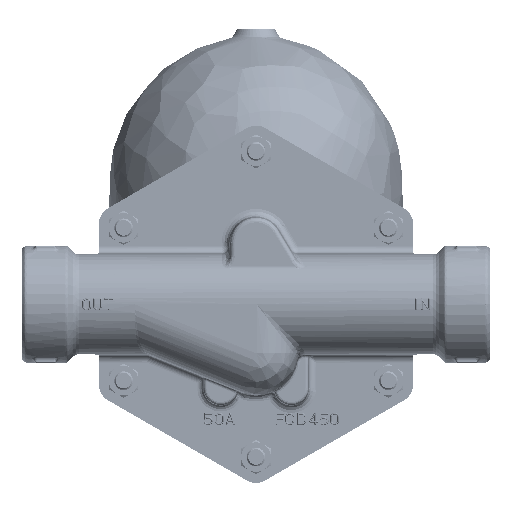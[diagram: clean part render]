
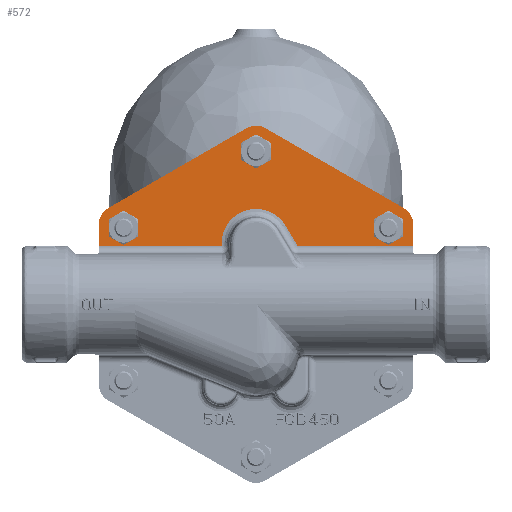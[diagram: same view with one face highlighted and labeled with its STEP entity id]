
A CAD part, front view. The second image highlights one B-rep face of the part: STEP entity #572.
In plain terms, the highlighted planar face has unit normal (0, -1, 0) as drawn and (0, 0, 1) by its records, which use the part's own axes.
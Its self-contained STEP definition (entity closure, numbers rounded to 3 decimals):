
#572=ADVANCED_FACE('',(#3962),#3961,.F.);
#3961=PLANE('',#22047);
#3962=FACE_OUTER_BOUND('',#22048,.T.);
#22044=CARTESIAN_POINT('',(110.764,29.84,-25.));
#22045=DIRECTION('',(0.,0.,-1.));
#22046=DIRECTION('',(-1.,0.,0.));
#22047=AXIS2_PLACEMENT_3D('',#22044,#22045,#22046);
#22048=EDGE_LOOP('',(#34925,#34926,#34927,#34928,#34929,#34930,#34931,#34932,#34933,#34934,#34935,#34936,#34937,#34938,#34939));
#34925=ORIENTED_EDGE('',*,*,#38678,.F.);
#34926=ORIENTED_EDGE('',*,*,#38630,.F.);
#34927=ORIENTED_EDGE('',*,*,#38679,.F.);
#34928=ORIENTED_EDGE('',*,*,#38680,.F.);
#34929=ORIENTED_EDGE('',*,*,#38681,.F.);
#34930=ORIENTED_EDGE('',*,*,#38682,.F.);
#34931=ORIENTED_EDGE('',*,*,#38683,.F.);
#34932=ORIENTED_EDGE('',*,*,#38676,.F.);
#34933=ORIENTED_EDGE('',*,*,#38470,.F.);
#34934=ORIENTED_EDGE('',*,*,#38496,.F.);
#34935=ORIENTED_EDGE('',*,*,#38684,.F.);
#34936=ORIENTED_EDGE('',*,*,#38466,.F.);
#34937=ORIENTED_EDGE('',*,*,#38460,.F.);
#34938=ORIENTED_EDGE('',*,*,#38622,.F.);
#34939=ORIENTED_EDGE('',*,*,#38685,.F.);
#38460=EDGE_CURVE('',#48103,#48090,#48104,.T.);
#38466=EDGE_CURVE('',#48090,#48130,#48144,.T.);
#38470=EDGE_CURVE('',#48077,#48151,#48171,.T.);
#38496=EDGE_CURVE('',#48350,#48077,#48351,.T.);
#38622=EDGE_CURVE('',#49196,#48103,#49203,.T.);
#38630=EDGE_CURVE('',#49247,#49254,#49255,.T.);
#38676=EDGE_CURVE('',#48151,#49549,#49550,.T.);
#38678=EDGE_CURVE('',#49254,#49562,#49563,.T.);
#38679=EDGE_CURVE('',#49569,#49247,#49570,.T.);
#38680=EDGE_CURVE('',#49576,#49569,#49577,.T.);
#38681=EDGE_CURVE('',#49583,#49576,#49584,.T.);
#38682=EDGE_CURVE('',#49590,#49583,#49591,.T.);
#38683=EDGE_CURVE('',#49549,#49590,#49597,.T.);
#38684=EDGE_CURVE('',#48130,#48350,#49603,.T.);
#38685=EDGE_CURVE('',#49562,#49196,#49609,.T.);
#48077=VERTEX_POINT('',#65828);
#48090=VERTEX_POINT('',#65837);
#48103=VERTEX_POINT('',#65846);
#48104=LINE('',#65847,#65848);
#48130=VERTEX_POINT('',#65863);
#48144=LINE('',#65872,#65873);
#48151=VERTEX_POINT('',#65876);
#48171=LINE('',#65889,#65890);
#48350=VERTEX_POINT('',#66023);
#48351=LINE('',#66024,#66025);
#49196=VERTEX_POINT('',#66786);
#49203=LINE('',#66790,#66791);
#49247=VERTEX_POINT('',#66814);
#49254=VERTEX_POINT('',#66818);
#49255=LINE('',#66819,#66820);
#49549=VERTEX_POINT('',#67078);
#49550=LINE('',#67079,#67080);
#49562=VERTEX_POINT('',#67085);
#49563=(BOUNDED_CURVE() B_SPLINE_CURVE(3,(#67086,#67087,#67088,#67089),.UNSPECIFIED.,.F.,.F.) B_SPLINE_CURVE_WITH_KNOTS((4,4),(5.76,6.283),.UNSPECIFIED.) CURVE() GEOMETRIC_REPRESENTATION_ITEM() RATIONAL_B_SPLINE_CURVE((1.,0.977,0.977,1.)) REPRESENTATION_ITEM('') );
#49569=VERTEX_POINT('',#67090);
#49570=(BOUNDED_CURVE() B_SPLINE_CURVE(3,(#67091,#67092,#67093,#67094),.UNSPECIFIED.,.F.,.F.) B_SPLINE_CURVE_WITH_KNOTS((4,4),(0.,0.523),.UNSPECIFIED.) CURVE() GEOMETRIC_REPRESENTATION_ITEM() RATIONAL_B_SPLINE_CURVE((1.,0.977,0.977,1.)) REPRESENTATION_ITEM('') );
#49576=VERTEX_POINT('',#67095);
#49577=(BOUNDED_CURVE() B_SPLINE_CURVE(3,(#67096,#67097,#67098,#67099),.UNSPECIFIED.,.F.,.F.) B_SPLINE_CURVE_WITH_KNOTS((4,4),(5.76,6.283),.UNSPECIFIED.) CURVE() GEOMETRIC_REPRESENTATION_ITEM() RATIONAL_B_SPLINE_CURVE((1.,0.977,0.977,1.)) REPRESENTATION_ITEM('') );
#49583=VERTEX_POINT('',#67100);
#49584=LINE('',#67101,#67102);
#49590=VERTEX_POINT('',#67104);
#49591=(BOUNDED_CURVE() B_SPLINE_CURVE(3,(#67105,#67106,#67107,#67108),.UNSPECIFIED.,.F.,.F.) B_SPLINE_CURVE_WITH_KNOTS((4,4),(0.,0.523),.UNSPECIFIED.) CURVE() GEOMETRIC_REPRESENTATION_ITEM() RATIONAL_B_SPLINE_CURVE((1.,0.977,0.977,1.)) REPRESENTATION_ITEM('') );
#49597=(BOUNDED_CURVE() B_SPLINE_CURVE(3,(#67109,#67110,#67111,#67112),.UNSPECIFIED.,.F.,.F.) B_SPLINE_CURVE_WITH_KNOTS((4,4),(5.76,6.283),.UNSPECIFIED.) CURVE() GEOMETRIC_REPRESENTATION_ITEM() RATIONAL_B_SPLINE_CURVE((1.,0.977,0.977,1.)) REPRESENTATION_ITEM('') );
#49603=CIRCLE('',#67116,22.087);
#49609=(BOUNDED_CURVE() B_SPLINE_CURVE(3,(#67117,#67118,#67119,#67120),.UNSPECIFIED.,.F.,.F.) B_SPLINE_CURVE_WITH_KNOTS((4,4),(0.,0.523),.UNSPECIFIED.) CURVE() GEOMETRIC_REPRESENTATION_ITEM() RATIONAL_B_SPLINE_CURVE((1.,0.977,0.977,1.)) REPRESENTATION_ITEM('') );
#65828=CARTESIAN_POINT('',(-22.087,37.536,-25.));
#65837=CARTESIAN_POINT('',(26.65,37.536,-25.));
#65846=CARTESIAN_POINT('',(100.764,37.536,-25.));
#65847=CARTESIAN_POINT('',(100.764,37.536,-25.));
#65848=VECTOR('',#65849,74.114);
#65849=DIRECTION('',(-1.,0.,0.));
#65863=CARTESIAN_POINT('',(18.93,50.379,-25.));
#65872=CARTESIAN_POINT('',(26.65,37.536,-25.));
#65873=VECTOR('',#65874,14.985);
#65874=DIRECTION('',(-0.515,0.857,0.));
#65876=CARTESIAN_POINT('',(-100.764,37.536,-25.));
#65889=CARTESIAN_POINT('',(-22.087,37.536,-25.));
#65890=VECTOR('',#65891,78.677);
#65891=DIRECTION('',(-1.,0.,0.));
#66023=CARTESIAN_POINT('',(-22.087,39.,-25.));
#66024=CARTESIAN_POINT('',(-22.087,39.,-25.));
#66025=VECTOR('',#66026,1.464);
#66026=DIRECTION('',(0.,-1.,0.));
#66786=CARTESIAN_POINT('',(100.764,51.255,-25.));
#66790=CARTESIAN_POINT('',(100.764,51.255,-25.));
#66791=VECTOR('',#66792,13.718);
#66792=DIRECTION('',(0.,-1.,0.));
#66814=CARTESIAN_POINT('',(5.994,112.892,-25.));
#66818=CARTESIAN_POINT('',(94.77,61.637,-25.));
#66819=CARTESIAN_POINT('',(5.994,112.892,-25.));
#66820=VECTOR('',#66821,102.509);
#66821=DIRECTION('',(0.866,-0.5,0.));
#67078=CARTESIAN_POINT('',(-100.764,51.255,-25.));
#67079=CARTESIAN_POINT('',(-100.764,37.536,-25.));
#67080=VECTOR('',#67081,13.718);
#67081=DIRECTION('',(0.,1.,0.));
#67085=CARTESIAN_POINT('',(99.158,57.249,-25.));
#67086=CARTESIAN_POINT('',(94.77,61.637,-25.));
#67087=CARTESIAN_POINT('',(96.603,60.578,-25.));
#67088=CARTESIAN_POINT('',(98.1,59.082,-25.));
#67089=CARTESIAN_POINT('',(99.158,57.249,-25.));
#67090=CARTESIAN_POINT('',(0.,114.498,-25.));
#67091=CARTESIAN_POINT('',(0.,114.498,-25.));
#67092=CARTESIAN_POINT('',(2.116,114.498,-25.));
#67093=CARTESIAN_POINT('',(4.161,113.95,-25.));
#67094=CARTESIAN_POINT('',(5.994,112.892,-25.));
#67095=CARTESIAN_POINT('',(-5.994,112.892,-25.));
#67096=CARTESIAN_POINT('',(-5.994,112.892,-25.));
#67097=CARTESIAN_POINT('',(-4.161,113.95,-25.));
#67098=CARTESIAN_POINT('',(-2.116,114.498,-25.));
#67099=CARTESIAN_POINT('',(0.,114.498,-25.));
#67100=CARTESIAN_POINT('',(-94.77,61.637,-25.));
#67101=CARTESIAN_POINT('',(-94.77,61.637,-25.));
#67102=VECTOR('',#67103,102.509);
#67103=DIRECTION('',(0.866,0.5,0.));
#67104=CARTESIAN_POINT('',(-99.158,57.249,-25.));
#67105=CARTESIAN_POINT('',(-99.158,57.249,-25.));
#67106=CARTESIAN_POINT('',(-98.1,59.082,-25.));
#67107=CARTESIAN_POINT('',(-96.603,60.578,-25.));
#67108=CARTESIAN_POINT('',(-94.77,61.637,-25.));
#67109=CARTESIAN_POINT('',(-100.764,51.255,-25.));
#67110=CARTESIAN_POINT('',(-100.764,53.372,-25.));
#67111=CARTESIAN_POINT('',(-100.216,55.416,-25.));
#67112=CARTESIAN_POINT('',(-99.158,57.249,-25.));
#67113=CARTESIAN_POINT('',(0.,39.,-25.));
#67114=DIRECTION('',(0.,0.,1.));
#67115=DIRECTION('',(-0.857,-0.515,0.));
#67116=AXIS2_PLACEMENT_3D('',#67113,#67114,#67115);
#67117=CARTESIAN_POINT('',(99.158,57.249,-25.));
#67118=CARTESIAN_POINT('',(100.216,55.416,-25.));
#67119=CARTESIAN_POINT('',(100.764,53.372,-25.));
#67120=CARTESIAN_POINT('',(100.764,51.255,-25.));
